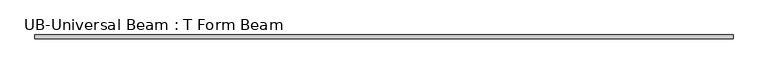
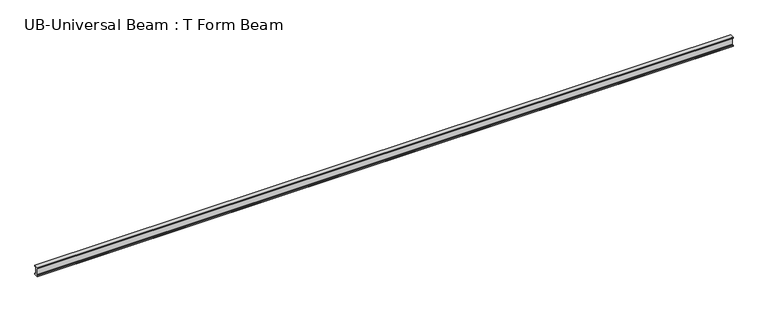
"""IFC4 building model written with IfcOpenShell, lengths in millimetres: beam geometry, UB-Universal Beam : T Form Beam."""

from ifc_helpers import new_model, si_unit, point, frame, frame_2d, origin, place, context, project, spatial, polyline, circle_curve, trimmed, segment, composite_curve, outline, extrude, source, transform, mapped, element, save


def ub_universal_beam_t_form_beam_cafdf109(model_context):
    return source(origin(), model_context, "Body", "SweptSolid", [
        extrude(outline(composite_curve([segment(polyline([(101.6, -190.5), (101.6, -241.3), (-101.6, -241.3), (-101.6, -190.5), (-63.5, -190.5)]), True, "CONTINUOUS"), segment(trimmed(circle_curve(frame_2d((-63.5, -165.1)), 25.4), [point((-63.5, -190.5))], [point((-38.1, -165.1))], True, "CARTESIAN"), True, "CONTINUOUS"), segment(polyline([(-38.1, -165.1), (-38.1, 165.1)]), True, "CONTINUOUS"), segment(trimmed(circle_curve(frame_2d((-63.5, 165.1)), 25.4), [point((-38.1, 165.1))], [point((-63.5, 190.5))], True, "CARTESIAN"), True, "CONTINUOUS"), segment(polyline([(-63.5, 190.5), (-101.6, 190.5), (-101.6, 241.3), (101.6, 241.3), (101.6, 190.5), (63.5, 190.5)]), True, "CONTINUOUS"), segment(trimmed(circle_curve(frame_2d((63.5, 165.1)), 25.4), [point((63.5, 190.5))], [point((38.1, 165.1))], True, "CARTESIAN"), True, "CONTINUOUS"), segment(polyline([(38.1, 165.1), (38.1, -165.1)]), True, "CONTINUOUS"), segment(trimmed(circle_curve(frame_2d((63.5, -165.1)), 25.4), [point((38.1, -165.1))], [point((63.5, -190.5))], True, "CARTESIAN"), True, "CONTINUOUS"), segment(polyline([(63.5, -190.5), (101.6, -190.5)]), True, "CONTINUOUS")], self_intersect=False)), frame((-17519.7697067, 0.0, 0.0), z_axis=(1.0, 0.0, 0.0), x_axis=(0.0, 1.0, 0.0)), (0.0, 0.0, 1.0), 35039.5394134),
    ])


if __name__ == "__main__":
    model = new_model("IFC4")
    model_context = context("Model", 3, world=origin())
    ifc_project = project(units=[si_unit("LENGTHUNIT", "METRE", prefix="MILLI")], contexts=[model_context])
    site = spatial("IfcSite", under=ifc_project)
    building = spatial("IfcBuilding", under=site)
    placement = place(None, origin())
    ub_universal_beam_t_form_beam_shape = ub_universal_beam_t_form_beam_cafdf109(model_context)
    element("IfcBeam", 1, ObjectType="UB-Universal Beam : T Form Beam", at=placement, inside=building, context=model_context, shape_type="MappedRepresentation", body=[
        mapped(ub_universal_beam_t_form_beam_shape, transform((0.0, 0.0, 0.0), x_axis=(1.0, 0.0, 0.0), y_axis=(0.0, 1.0, 0.0), z_axis=(0.0, 0.0, 1.0))),
    ])
    save(model, "model.ifc")
